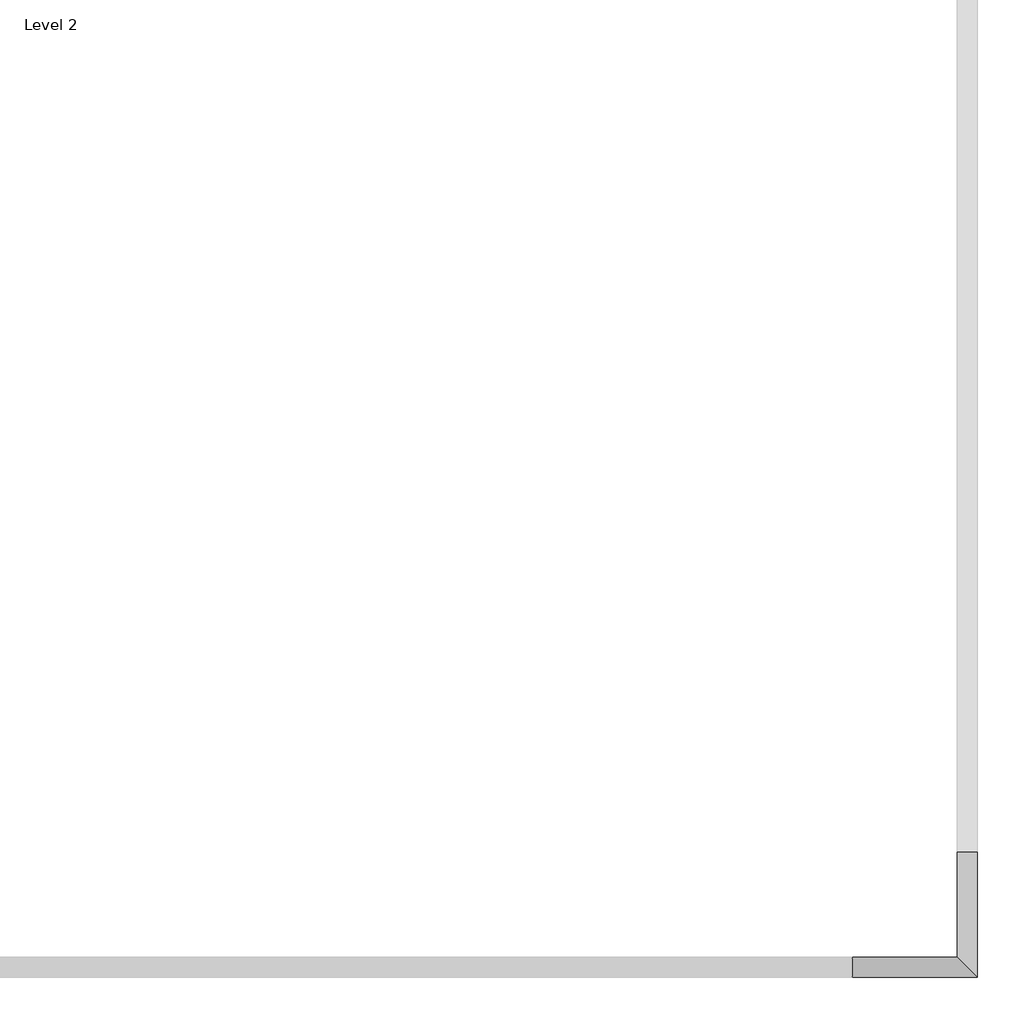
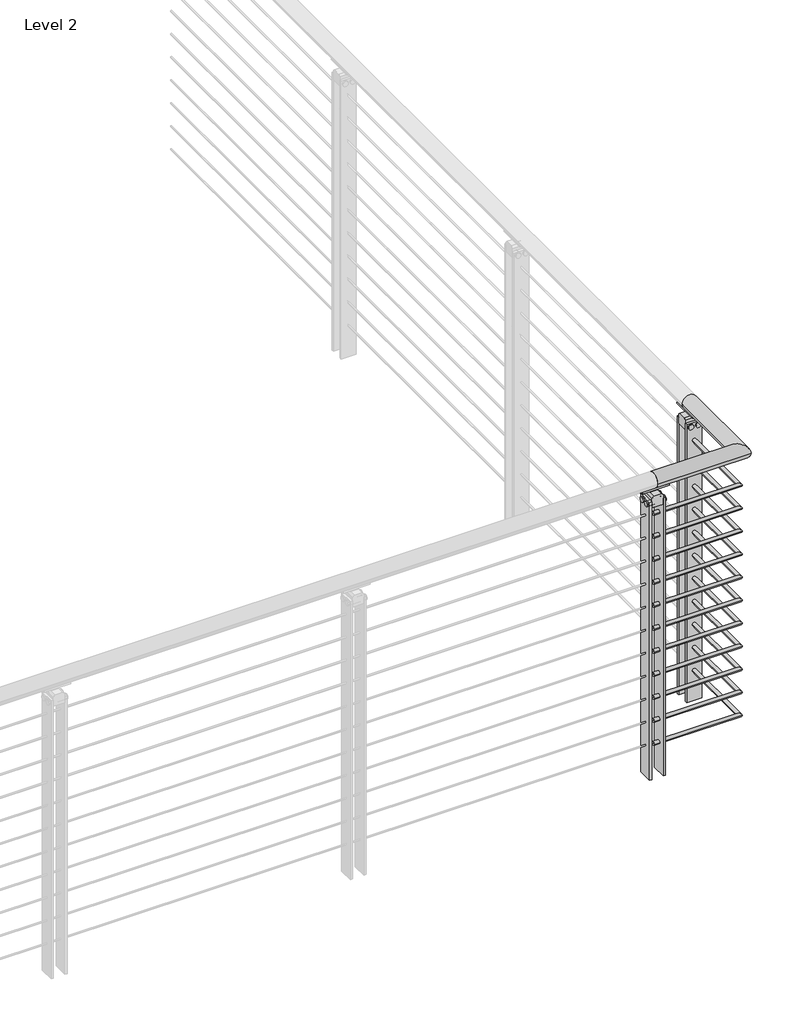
# One storey, part 25 of 31: 1 railing.
"""IFC4 building model written with IfcOpenShell, lengths in millimetres."""

from ifc_helpers import new_model, si_unit, point, frame, frame_2d, origin, place, context, project, spatial, polyline, circle_curve, ellipse_curve, trimmed, segment, composite_curve, outline, extrude, element, save
from ifc_brep_helpers import plane_surface, cylinder_surface, revolved_surface, advanced_brep

model = new_model("IFC4")

# Units and contexts
model_context = context("Model", 3, world=origin())
ifc_project = project(units=[si_unit("LENGTHUNIT", "METRE", prefix="MILLI")], contexts=[model_context])

# Site, building, storey
site = spatial("IfcSite", under=ifc_project)
building = spatial("IfcBuilding", under=site)
storey = spatial("IfcBuildingStorey", under=building, Name="Level 2", Elevation=3048.0)

# Railing
placement = place(None, origin())
element("IfcRailing", 1, ObjectType="VIVA-BLADE-Cable-Weld Mount-Corner", at=placement, inside=storey, context=model_context, shape_type="SolidModel", body=[
    advanced_brep(
    [(46126.2072927, -52244.4426165, 4102.1), (46126.2072927, -52193.6426165, 4102.1), (46443.7072927, -52244.4426165, 4102.1), (46392.9072927, -52193.6426165, 4102.1), (46443.7072927, -51926.9426165, 4102.1), (46392.9072927, -51926.9426165, 4102.1)],
    [
        (0, 1, circle_curve(frame((46126.2072927, -52219.0426165, 4102.1), z_axis=(-1.0, 0.0, 0.0), x_axis=(0.0, 1.0, 0.0)), 25.4)),
        (1, 0, circle_curve(frame((46126.2072927, -52219.0426165, 4102.1), z_axis=(-1.0, 0.0, 0.0), x_axis=(0.0, 1.0, 0.0)), 25.4)),
        (0, 2),
        (2, 3, ellipse_curve(frame((46418.3072927, -52219.0426165, 4102.1), z_axis=(-0.7071067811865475, -0.7071067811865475, 0.0), x_axis=(-0.7071067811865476, 0.7071067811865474, 0.0)), 35.9210245, 25.4)),
        (3, 1),
        (3, 2, ellipse_curve(frame((46418.3072927, -52219.0426165, 4102.1), z_axis=(-0.7071067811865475, -0.7071067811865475, 0.0), x_axis=(-0.7071067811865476, 0.7071067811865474, 0.0)), 35.9210245, 25.4)),
        (4, 5, circle_curve(frame((46418.3072927, -51926.9426165, 4102.1), z_axis=(0.0, 1.0, 0.0), x_axis=(-1.0, 0.0, 0.0)), 25.4)),
        (5, 4, circle_curve(frame((46418.3072927, -51926.9426165, 4102.1), z_axis=(0.0, 1.0, 0.0), x_axis=(-1.0, 0.0, 0.0)), 25.4)),
        (2, 4),
        (5, 3),
    ],
    [
        plane_surface(frame((46126.2072927, -52219.0426165, 4127.5), z_axis=(-1.0, 0.0, 0.0), x_axis=(0.0, 1.0, 0.0))),
        cylinder_surface(frame((46126.2072927, -52219.0426165, 4102.1), z_axis=(-1.0, 0.0, 0.0), x_axis=(0.0, 1.0, 0.0)), 25.4),
        plane_surface(frame((46418.3072927, -51926.9426165, 4127.5), z_axis=(0.0, 1.0, 0.0), x_axis=(0.0, 0.0, 1.0))),
        cylinder_surface(frame((46418.3072927, -52219.0426165, 4102.1), z_axis=(0.0, -1.0, 0.0), x_axis=(-1.0, 0.0, 0.0)), 25.4),
    ],
    [
        (0, [[1, 2]]),
        (1, [[-1, 3, 4, 5]]),
        (1, [[-2, -5, 6, -3]]),
        (2, [[7, 8]]),
        (3, [[-4, 9, -8, 10]]),
        (3, [[-6, -10, -7, -9]]),
    ],
),
    advanced_brep(
    [(46126.2072927, -52212.6926165, 3981.45), (46126.2072927, -52225.3926165, 3981.45), (46411.9572927, -52212.6926165, 3981.45), (46424.6572927, -52225.3926165, 3981.45), (46411.9572927, -51926.9426165, 3981.45), (46424.6572927, -51926.9426165, 3981.45)],
    [
        (0, 1, circle_curve(frame((46126.2072927, -52219.0426165, 3981.45), z_axis=(-1.0, 0.0, 0.0), x_axis=(0.0, -1.0, 0.0)), 6.35)),
        (1, 0, circle_curve(frame((46126.2072927, -52219.0426165, 3981.45), z_axis=(-1.0, 0.0, 0.0), x_axis=(0.0, -1.0, 0.0)), 6.35)),
        (0, 2),
        (2, 3, ellipse_curve(frame((46418.3072927, -52219.0426165, 3981.45), z_axis=(-0.7071067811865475, -0.7071067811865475, 0.0), x_axis=(-0.7071067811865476, 0.7071067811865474, 0.0)), 8.9802561, 6.35)),
        (3, 1),
        (3, 2, ellipse_curve(frame((46418.3072927, -52219.0426165, 3981.45), z_axis=(-0.7071067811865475, -0.7071067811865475, 0.0), x_axis=(-0.7071067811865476, 0.7071067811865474, 0.0)), 8.9802561, 6.35)),
        (4, 5, circle_curve(frame((46418.3072927, -51926.9426165, 3981.45), z_axis=(0.0, 1.0, 0.0), x_axis=(1.0, 0.0, 0.0)), 6.35)),
        (5, 4, circle_curve(frame((46418.3072927, -51926.9426165, 3981.45), z_axis=(0.0, 1.0, 0.0), x_axis=(1.0, 0.0, 0.0)), 6.35)),
        (2, 4),
        (5, 3),
    ],
    [
        plane_surface(frame((46126.2072927, -52219.0426165, 3987.8), z_axis=(-1.0, 0.0, 0.0), x_axis=(0.0, 1.0, 0.0))),
        cylinder_surface(frame((46126.2072927, -52219.0426165, 3981.45), z_axis=(-1.0, 0.0, 0.0), x_axis=(0.0, -1.0, 0.0)), 6.35),
        plane_surface(frame((46418.3072927, -51926.9426165, 3987.8), z_axis=(0.0, 1.0, 0.0), x_axis=(0.0, 0.0, 1.0))),
        cylinder_surface(frame((46418.3072927, -52219.0426165, 3981.45), z_axis=(0.0, -1.0, 0.0), x_axis=(1.0, 0.0, 0.0)), 6.35),
    ],
    [
        (0, [[1, 2]]),
        (1, [[-1, 3, 4, 5]]),
        (1, [[-2, -5, 6, -3]]),
        (2, [[7, 8]]),
        (3, [[-4, 9, -8, 10]]),
        (3, [[-6, -10, -7, -9]]),
    ],
),
    advanced_brep(
    [(46126.2072927, -52212.6926165, 3898.9), (46126.2072927, -52225.3926165, 3898.9), (46411.9572927, -52212.6926165, 3898.9), (46424.6572927, -52225.3926165, 3898.9), (46411.9572927, -51926.9426165, 3898.9), (46424.6572927, -51926.9426165, 3898.9)],
    [
        (0, 1, circle_curve(frame((46126.2072927, -52219.0426165, 3898.9), z_axis=(-1.0, 0.0, 0.0), x_axis=(0.0, -1.0, 0.0)), 6.35)),
        (1, 0, circle_curve(frame((46126.2072927, -52219.0426165, 3898.9), z_axis=(-1.0, 0.0, 0.0), x_axis=(0.0, -1.0, 0.0)), 6.35)),
        (0, 2),
        (2, 3, ellipse_curve(frame((46418.3072927, -52219.0426165, 3898.9), z_axis=(-0.7071067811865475, -0.7071067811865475, 0.0), x_axis=(-0.7071067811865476, 0.7071067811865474, 0.0)), 8.9802561, 6.35)),
        (3, 1),
        (3, 2, ellipse_curve(frame((46418.3072927, -52219.0426165, 3898.9), z_axis=(-0.7071067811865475, -0.7071067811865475, 0.0), x_axis=(-0.7071067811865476, 0.7071067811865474, 0.0)), 8.9802561, 6.35)),
        (4, 5, circle_curve(frame((46418.3072927, -51926.9426165, 3898.9), z_axis=(0.0, 1.0, 0.0), x_axis=(1.0, 0.0, 0.0)), 6.35)),
        (5, 4, circle_curve(frame((46418.3072927, -51926.9426165, 3898.9), z_axis=(0.0, 1.0, 0.0), x_axis=(1.0, 0.0, 0.0)), 6.35)),
        (2, 4),
        (5, 3),
    ],
    [
        plane_surface(frame((46126.2072927, -52219.0426165, 3905.25), z_axis=(-1.0, 0.0, 0.0), x_axis=(0.0, 1.0, 0.0))),
        cylinder_surface(frame((46126.2072927, -52219.0426165, 3898.9), z_axis=(-1.0, 0.0, 0.0), x_axis=(0.0, -1.0, 0.0)), 6.35),
        plane_surface(frame((46418.3072927, -51926.9426165, 3905.25), z_axis=(0.0, 1.0, 0.0), x_axis=(0.0, 0.0, 1.0))),
        cylinder_surface(frame((46418.3072927, -52219.0426165, 3898.9), z_axis=(0.0, -1.0, 0.0), x_axis=(1.0, 0.0, 0.0)), 6.35),
    ],
    [
        (0, [[1, 2]]),
        (1, [[-1, 3, 4, 5]]),
        (1, [[-2, -5, 6, -3]]),
        (2, [[7, 8]]),
        (3, [[-4, 9, -8, 10]]),
        (3, [[-6, -10, -7, -9]]),
    ],
),
    advanced_brep(
    [(46126.2072927, -52212.6926165, 3816.35), (46126.2072927, -52225.3926165, 3816.35), (46411.9572927, -52212.6926165, 3816.35), (46424.6572927, -52225.3926165, 3816.35), (46411.9572927, -51926.9426165, 3816.35), (46424.6572927, -51926.9426165, 3816.35)],
    [
        (0, 1, circle_curve(frame((46126.2072927, -52219.0426165, 3816.35), z_axis=(-1.0, 0.0, 0.0), x_axis=(0.0, -1.0, 0.0)), 6.35)),
        (1, 0, circle_curve(frame((46126.2072927, -52219.0426165, 3816.35), z_axis=(-1.0, 0.0, 0.0), x_axis=(0.0, -1.0, 0.0)), 6.35)),
        (0, 2),
        (2, 3, ellipse_curve(frame((46418.3072927, -52219.0426165, 3816.35), z_axis=(-0.7071067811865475, -0.7071067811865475, 0.0), x_axis=(-0.7071067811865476, 0.7071067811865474, 0.0)), 8.9802561, 6.35)),
        (3, 1),
        (3, 2, ellipse_curve(frame((46418.3072927, -52219.0426165, 3816.35), z_axis=(-0.7071067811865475, -0.7071067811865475, 0.0), x_axis=(-0.7071067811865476, 0.7071067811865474, 0.0)), 8.9802561, 6.35)),
        (4, 5, circle_curve(frame((46418.3072927, -51926.9426165, 3816.35), z_axis=(0.0, 1.0, 0.0), x_axis=(1.0, 0.0, 0.0)), 6.35)),
        (5, 4, circle_curve(frame((46418.3072927, -51926.9426165, 3816.35), z_axis=(0.0, 1.0, 0.0), x_axis=(1.0, 0.0, 0.0)), 6.35)),
        (2, 4),
        (5, 3),
    ],
    [
        plane_surface(frame((46126.2072927, -52219.0426165, 3822.7), z_axis=(-1.0, 0.0, 0.0), x_axis=(0.0, 1.0, 0.0))),
        cylinder_surface(frame((46126.2072927, -52219.0426165, 3816.35), z_axis=(-1.0, 0.0, 0.0), x_axis=(0.0, -1.0, 0.0)), 6.35),
        plane_surface(frame((46418.3072927, -51926.9426165, 3822.7), z_axis=(0.0, 1.0, 0.0), x_axis=(0.0, 0.0, 1.0))),
        cylinder_surface(frame((46418.3072927, -52219.0426165, 3816.35), z_axis=(0.0, -1.0, 0.0), x_axis=(1.0, 0.0, 0.0)), 6.35),
    ],
    [
        (0, [[1, 2]]),
        (1, [[-1, 3, 4, 5]]),
        (1, [[-2, -5, 6, -3]]),
        (2, [[7, 8]]),
        (3, [[-4, 9, -8, 10]]),
        (3, [[-6, -10, -7, -9]]),
    ],
),
    advanced_brep(
    [(46126.2072927, -52212.6926165, 3733.8), (46126.2072927, -52225.3926165, 3733.8), (46411.9572927, -52212.6926165, 3733.8), (46424.6572927, -52225.3926165, 3733.8), (46411.9572927, -51926.9426165, 3733.8), (46424.6572927, -51926.9426165, 3733.8)],
    [
        (0, 1, circle_curve(frame((46126.2072927, -52219.0426165, 3733.8), z_axis=(-1.0, 0.0, 0.0), x_axis=(0.0, -1.0, 0.0)), 6.35)),
        (1, 0, circle_curve(frame((46126.2072927, -52219.0426165, 3733.8), z_axis=(-1.0, 0.0, 0.0), x_axis=(0.0, -1.0, 0.0)), 6.35)),
        (0, 2),
        (2, 3, ellipse_curve(frame((46418.3072927, -52219.0426165, 3733.8), z_axis=(-0.7071067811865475, -0.7071067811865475, 0.0), x_axis=(-0.7071067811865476, 0.7071067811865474, 0.0)), 8.9802561, 6.35)),
        (3, 1),
        (3, 2, ellipse_curve(frame((46418.3072927, -52219.0426165, 3733.8), z_axis=(-0.7071067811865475, -0.7071067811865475, 0.0), x_axis=(-0.7071067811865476, 0.7071067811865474, 0.0)), 8.9802561, 6.35)),
        (4, 5, circle_curve(frame((46418.3072927, -51926.9426165, 3733.8), z_axis=(0.0, 1.0, 0.0), x_axis=(1.0, 0.0, 0.0)), 6.35)),
        (5, 4, circle_curve(frame((46418.3072927, -51926.9426165, 3733.8), z_axis=(0.0, 1.0, 0.0), x_axis=(1.0, 0.0, 0.0)), 6.35)),
        (2, 4),
        (5, 3),
    ],
    [
        plane_surface(frame((46126.2072927, -52219.0426165, 3740.15), z_axis=(-1.0, 0.0, 0.0), x_axis=(0.0, 1.0, 0.0))),
        cylinder_surface(frame((46126.2072927, -52219.0426165, 3733.8), z_axis=(-1.0, 0.0, 0.0), x_axis=(0.0, -1.0, 0.0)), 6.35),
        plane_surface(frame((46418.3072927, -51926.9426165, 3740.15), z_axis=(0.0, 1.0, 0.0), x_axis=(0.0, 0.0, 1.0))),
        cylinder_surface(frame((46418.3072927, -52219.0426165, 3733.8), z_axis=(0.0, -1.0, 0.0), x_axis=(1.0, 0.0, 0.0)), 6.35),
    ],
    [
        (0, [[1, 2]]),
        (1, [[-1, 3, 4, 5]]),
        (1, [[-2, -5, 6, -3]]),
        (2, [[7, 8]]),
        (3, [[-4, 9, -8, 10]]),
        (3, [[-6, -10, -7, -9]]),
    ],
),
    advanced_brep(
    [(46126.2072927, -52212.6926165, 3651.25), (46126.2072927, -52225.3926165, 3651.25), (46411.9572927, -52212.6926165, 3651.25), (46424.6572927, -52225.3926165, 3651.25), (46411.9572927, -51926.9426165, 3651.25), (46424.6572927, -51926.9426165, 3651.25)],
    [
        (0, 1, circle_curve(frame((46126.2072927, -52219.0426165, 3651.25), z_axis=(-1.0, 0.0, 0.0), x_axis=(0.0, -1.0, 0.0)), 6.35)),
        (1, 0, circle_curve(frame((46126.2072927, -52219.0426165, 3651.25), z_axis=(-1.0, 0.0, 0.0), x_axis=(0.0, -1.0, 0.0)), 6.35)),
        (0, 2),
        (2, 3, ellipse_curve(frame((46418.3072927, -52219.0426165, 3651.25), z_axis=(-0.7071067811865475, -0.7071067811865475, 0.0), x_axis=(-0.7071067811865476, 0.7071067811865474, 0.0)), 8.9802561, 6.35)),
        (3, 1),
        (3, 2, ellipse_curve(frame((46418.3072927, -52219.0426165, 3651.25), z_axis=(-0.7071067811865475, -0.7071067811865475, 0.0), x_axis=(-0.7071067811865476, 0.7071067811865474, 0.0)), 8.9802561, 6.35)),
        (4, 5, circle_curve(frame((46418.3072927, -51926.9426165, 3651.25), z_axis=(0.0, 1.0, 0.0), x_axis=(1.0, 0.0, 0.0)), 6.35)),
        (5, 4, circle_curve(frame((46418.3072927, -51926.9426165, 3651.25), z_axis=(0.0, 1.0, 0.0), x_axis=(1.0, 0.0, 0.0)), 6.35)),
        (2, 4),
        (5, 3),
    ],
    [
        plane_surface(frame((46126.2072927, -52219.0426165, 3657.6), z_axis=(-1.0, 0.0, 0.0), x_axis=(0.0, 1.0, 0.0))),
        cylinder_surface(frame((46126.2072927, -52219.0426165, 3651.25), z_axis=(-1.0, 0.0, 0.0), x_axis=(0.0, -1.0, 0.0)), 6.35),
        plane_surface(frame((46418.3072927, -51926.9426165, 3657.6), z_axis=(0.0, 1.0, 0.0), x_axis=(0.0, 0.0, 1.0))),
        cylinder_surface(frame((46418.3072927, -52219.0426165, 3651.25), z_axis=(0.0, -1.0, 0.0), x_axis=(1.0, 0.0, 0.0)), 6.35),
    ],
    [
        (0, [[1, 2]]),
        (1, [[-1, 3, 4, 5]]),
        (1, [[-2, -5, 6, -3]]),
        (2, [[7, 8]]),
        (3, [[-4, 9, -8, 10]]),
        (3, [[-6, -10, -7, -9]]),
    ],
),
    advanced_brep(
    [(46126.2072927, -52212.6926165, 3568.7), (46126.2072927, -52225.3926165, 3568.7), (46411.9572927, -52212.6926165, 3568.7), (46424.6572927, -52225.3926165, 3568.7), (46411.9572927, -51926.9426165, 3568.7), (46424.6572927, -51926.9426165, 3568.7)],
    [
        (0, 1, circle_curve(frame((46126.2072927, -52219.0426165, 3568.7), z_axis=(-1.0, 0.0, 0.0), x_axis=(0.0, -1.0, 0.0)), 6.35)),
        (1, 0, circle_curve(frame((46126.2072927, -52219.0426165, 3568.7), z_axis=(-1.0, 0.0, 0.0), x_axis=(0.0, -1.0, 0.0)), 6.35)),
        (0, 2),
        (2, 3, ellipse_curve(frame((46418.3072927, -52219.0426165, 3568.7), z_axis=(-0.7071067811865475, -0.7071067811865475, 0.0), x_axis=(-0.7071067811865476, 0.7071067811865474, 0.0)), 8.9802561, 6.35)),
        (3, 1),
        (3, 2, ellipse_curve(frame((46418.3072927, -52219.0426165, 3568.7), z_axis=(-0.7071067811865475, -0.7071067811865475, 0.0), x_axis=(-0.7071067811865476, 0.7071067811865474, 0.0)), 8.9802561, 6.35)),
        (4, 5, circle_curve(frame((46418.3072927, -51926.9426165, 3568.7), z_axis=(0.0, 1.0, 0.0), x_axis=(1.0, 0.0, 0.0)), 6.35)),
        (5, 4, circle_curve(frame((46418.3072927, -51926.9426165, 3568.7), z_axis=(0.0, 1.0, 0.0), x_axis=(1.0, 0.0, 0.0)), 6.35)),
        (2, 4),
        (5, 3),
    ],
    [
        plane_surface(frame((46126.2072927, -52219.0426165, 3575.05), z_axis=(-1.0, 0.0, 0.0), x_axis=(0.0, 1.0, 0.0))),
        cylinder_surface(frame((46126.2072927, -52219.0426165, 3568.7), z_axis=(-1.0, 0.0, 0.0), x_axis=(0.0, -1.0, 0.0)), 6.35),
        plane_surface(frame((46418.3072927, -51926.9426165, 3575.05), z_axis=(0.0, 1.0, 0.0), x_axis=(0.0, 0.0, 1.0))),
        cylinder_surface(frame((46418.3072927, -52219.0426165, 3568.7), z_axis=(0.0, -1.0, 0.0), x_axis=(1.0, 0.0, 0.0)), 6.35),
    ],
    [
        (0, [[1, 2]]),
        (1, [[-1, 3, 4, 5]]),
        (1, [[-2, -5, 6, -3]]),
        (2, [[7, 8]]),
        (3, [[-4, 9, -8, 10]]),
        (3, [[-6, -10, -7, -9]]),
    ],
),
    advanced_brep(
    [(46126.2072927, -52212.6926165, 3486.15), (46126.2072927, -52225.3926165, 3486.15), (46411.9572927, -52212.6926165, 3486.15), (46424.6572927, -52225.3926165, 3486.15), (46411.9572927, -51926.9426165, 3486.15), (46424.6572927, -51926.9426165, 3486.15)],
    [
        (0, 1, circle_curve(frame((46126.2072927, -52219.0426165, 3486.15), z_axis=(-1.0, 0.0, 0.0), x_axis=(0.0, -1.0, 0.0)), 6.35)),
        (1, 0, circle_curve(frame((46126.2072927, -52219.0426165, 3486.15), z_axis=(-1.0, 0.0, 0.0), x_axis=(0.0, -1.0, 0.0)), 6.35)),
        (0, 2),
        (2, 3, ellipse_curve(frame((46418.3072927, -52219.0426165, 3486.15), z_axis=(-0.7071067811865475, -0.7071067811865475, 0.0), x_axis=(-0.7071067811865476, 0.7071067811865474, 0.0)), 8.9802561, 6.35)),
        (3, 1),
        (3, 2, ellipse_curve(frame((46418.3072927, -52219.0426165, 3486.15), z_axis=(-0.7071067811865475, -0.7071067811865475, 0.0), x_axis=(-0.7071067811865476, 0.7071067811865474, 0.0)), 8.9802561, 6.35)),
        (4, 5, circle_curve(frame((46418.3072927, -51926.9426165, 3486.15), z_axis=(0.0, 1.0, 0.0), x_axis=(1.0, 0.0, 0.0)), 6.35)),
        (5, 4, circle_curve(frame((46418.3072927, -51926.9426165, 3486.15), z_axis=(0.0, 1.0, 0.0), x_axis=(1.0, 0.0, 0.0)), 6.35)),
        (2, 4),
        (5, 3),
    ],
    [
        plane_surface(frame((46126.2072927, -52219.0426165, 3492.5), z_axis=(-1.0, 0.0, 0.0), x_axis=(0.0, 1.0, 0.0))),
        cylinder_surface(frame((46126.2072927, -52219.0426165, 3486.15), z_axis=(-1.0, 0.0, 0.0), x_axis=(0.0, -1.0, 0.0)), 6.35),
        plane_surface(frame((46418.3072927, -51926.9426165, 3492.5), z_axis=(0.0, 1.0, 0.0), x_axis=(0.0, 0.0, 1.0))),
        cylinder_surface(frame((46418.3072927, -52219.0426165, 3486.15), z_axis=(0.0, -1.0, 0.0), x_axis=(1.0, 0.0, 0.0)), 6.35),
    ],
    [
        (0, [[1, 2]]),
        (1, [[-1, 3, 4, 5]]),
        (1, [[-2, -5, 6, -3]]),
        (2, [[7, 8]]),
        (3, [[-4, 9, -8, 10]]),
        (3, [[-6, -10, -7, -9]]),
    ],
),
    advanced_brep(
    [(46126.2072927, -52212.6926165, 3403.6), (46126.2072927, -52225.3926165, 3403.6), (46411.9572927, -52212.6926165, 3403.6), (46424.6572927, -52225.3926165, 3403.6), (46411.9572927, -51926.9426165, 3403.6), (46424.6572927, -51926.9426165, 3403.6)],
    [
        (0, 1, circle_curve(frame((46126.2072927, -52219.0426165, 3403.6), z_axis=(-1.0, 0.0, 0.0), x_axis=(0.0, -1.0, 0.0)), 6.35)),
        (1, 0, circle_curve(frame((46126.2072927, -52219.0426165, 3403.6), z_axis=(-1.0, 0.0, 0.0), x_axis=(0.0, -1.0, 0.0)), 6.35)),
        (0, 2),
        (2, 3, ellipse_curve(frame((46418.3072927, -52219.0426165, 3403.6), z_axis=(-0.7071067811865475, -0.7071067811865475, 0.0), x_axis=(-0.7071067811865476, 0.7071067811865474, 0.0)), 8.9802561, 6.35)),
        (3, 1),
        (3, 2, ellipse_curve(frame((46418.3072927, -52219.0426165, 3403.6), z_axis=(-0.7071067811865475, -0.7071067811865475, 0.0), x_axis=(-0.7071067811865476, 0.7071067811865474, 0.0)), 8.9802561, 6.35)),
        (4, 5, circle_curve(frame((46418.3072927, -51926.9426165, 3403.6), z_axis=(0.0, 1.0, 0.0), x_axis=(1.0, 0.0, 0.0)), 6.35)),
        (5, 4, circle_curve(frame((46418.3072927, -51926.9426165, 3403.6), z_axis=(0.0, 1.0, 0.0), x_axis=(1.0, 0.0, 0.0)), 6.35)),
        (2, 4),
        (5, 3),
    ],
    [
        plane_surface(frame((46126.2072927, -52219.0426165, 3409.95), z_axis=(-1.0, 0.0, 0.0), x_axis=(0.0, 1.0, 0.0))),
        cylinder_surface(frame((46126.2072927, -52219.0426165, 3403.6), z_axis=(-1.0, 0.0, 0.0), x_axis=(0.0, -1.0, 0.0)), 6.35),
        plane_surface(frame((46418.3072927, -51926.9426165, 3409.95), z_axis=(0.0, 1.0, 0.0), x_axis=(0.0, 0.0, 1.0))),
        cylinder_surface(frame((46418.3072927, -52219.0426165, 3403.6), z_axis=(0.0, -1.0, 0.0), x_axis=(1.0, 0.0, 0.0)), 6.35),
    ],
    [
        (0, [[1, 2]]),
        (1, [[-1, 3, 4, 5]]),
        (1, [[-2, -5, 6, -3]]),
        (2, [[7, 8]]),
        (3, [[-4, 9, -8, 10]]),
        (3, [[-6, -10, -7, -9]]),
    ],
),
    advanced_brep(
    [(46126.2072927, -52212.6926165, 3321.05), (46126.2072927, -52225.3926165, 3321.05), (46411.9572927, -52212.6926165, 3321.05), (46424.6572927, -52225.3926165, 3321.05), (46411.9572927, -51926.9426165, 3321.05), (46424.6572927, -51926.9426165, 3321.05)],
    [
        (0, 1, circle_curve(frame((46126.2072927, -52219.0426165, 3321.05), z_axis=(-1.0, 0.0, 0.0), x_axis=(0.0, -1.0, 0.0)), 6.35)),
        (1, 0, circle_curve(frame((46126.2072927, -52219.0426165, 3321.05), z_axis=(-1.0, 0.0, 0.0), x_axis=(0.0, -1.0, 0.0)), 6.35)),
        (0, 2),
        (2, 3, ellipse_curve(frame((46418.3072927, -52219.0426165, 3321.05), z_axis=(-0.7071067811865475, -0.7071067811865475, 0.0), x_axis=(-0.7071067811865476, 0.7071067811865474, 0.0)), 8.9802561, 6.35)),
        (3, 1),
        (3, 2, ellipse_curve(frame((46418.3072927, -52219.0426165, 3321.05), z_axis=(-0.7071067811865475, -0.7071067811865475, 0.0), x_axis=(-0.7071067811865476, 0.7071067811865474, 0.0)), 8.9802561, 6.35)),
        (4, 5, circle_curve(frame((46418.3072927, -51926.9426165, 3321.05), z_axis=(0.0, 1.0, 0.0), x_axis=(1.0, 0.0, 0.0)), 6.35)),
        (5, 4, circle_curve(frame((46418.3072927, -51926.9426165, 3321.05), z_axis=(0.0, 1.0, 0.0), x_axis=(1.0, 0.0, 0.0)), 6.35)),
        (2, 4),
        (5, 3),
    ],
    [
        plane_surface(frame((46126.2072927, -52219.0426165, 3327.4), z_axis=(-1.0, 0.0, 0.0), x_axis=(0.0, 1.0, 0.0))),
        cylinder_surface(frame((46126.2072927, -52219.0426165, 3321.05), z_axis=(-1.0, 0.0, 0.0), x_axis=(0.0, -1.0, 0.0)), 6.35),
        plane_surface(frame((46418.3072927, -51926.9426165, 3327.4), z_axis=(0.0, 1.0, 0.0), x_axis=(0.0, 0.0, 1.0))),
        cylinder_surface(frame((46418.3072927, -52219.0426165, 3321.05), z_axis=(0.0, -1.0, 0.0), x_axis=(1.0, 0.0, 0.0)), 6.35),
    ],
    [
        (0, [[1, 2]]),
        (1, [[-1, 3, 4, 5]]),
        (1, [[-2, -5, 6, -3]]),
        (2, [[7, 8]]),
        (3, [[-4, 9, -8, 10]]),
        (3, [[-6, -10, -7, -9]]),
    ],
),
    advanced_brep(
    [(46126.2072927, -52212.6926165, 3238.5), (46126.2072927, -52225.3926165, 3238.5), (46411.9572927, -52212.6926165, 3238.5), (46424.6572927, -52225.3926165, 3238.5), (46411.9572927, -51926.9426165, 3238.5), (46424.6572927, -51926.9426165, 3238.5)],
    [
        (0, 1, circle_curve(frame((46126.2072927, -52219.0426165, 3238.5), z_axis=(-1.0, 0.0, 0.0), x_axis=(0.0, -1.0, 0.0)), 6.35)),
        (1, 0, circle_curve(frame((46126.2072927, -52219.0426165, 3238.5), z_axis=(-1.0, 0.0, 0.0), x_axis=(0.0, -1.0, 0.0)), 6.35)),
        (0, 2),
        (2, 3, ellipse_curve(frame((46418.3072927, -52219.0426165, 3238.5), z_axis=(-0.7071067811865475, -0.7071067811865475, 0.0), x_axis=(-0.7071067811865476, 0.7071067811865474, 0.0)), 8.9802561, 6.35)),
        (3, 1),
        (3, 2, ellipse_curve(frame((46418.3072927, -52219.0426165, 3238.5), z_axis=(-0.7071067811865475, -0.7071067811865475, 0.0), x_axis=(-0.7071067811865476, 0.7071067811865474, 0.0)), 8.9802561, 6.35)),
        (4, 5, circle_curve(frame((46418.3072927, -51926.9426165, 3238.5), z_axis=(0.0, 1.0, 0.0), x_axis=(1.0, 0.0, 0.0)), 6.35)),
        (5, 4, circle_curve(frame((46418.3072927, -51926.9426165, 3238.5), z_axis=(0.0, 1.0, 0.0), x_axis=(1.0, 0.0, 0.0)), 6.35)),
        (2, 4),
        (5, 3),
    ],
    [
        plane_surface(frame((46126.2072927, -52219.0426165, 3244.85), z_axis=(-1.0, 0.0, 0.0), x_axis=(0.0, 1.0, 0.0))),
        cylinder_surface(frame((46126.2072927, -52219.0426165, 3238.5), z_axis=(-1.0, 0.0, 0.0), x_axis=(0.0, -1.0, 0.0)), 6.35),
        plane_surface(frame((46418.3072927, -51926.9426165, 3244.85), z_axis=(0.0, 1.0, 0.0), x_axis=(0.0, 0.0, 1.0))),
        cylinder_surface(frame((46418.3072927, -52219.0426165, 3238.5), z_axis=(0.0, -1.0, 0.0), x_axis=(1.0, 0.0, 0.0)), 6.35),
    ],
    [
        (0, [[1, 2]]),
        (1, [[-1, 3, 4, 5]]),
        (1, [[-2, -5, 6, -3]]),
        (2, [[7, 8]]),
        (3, [[-4, 9, -8, 10]]),
        (3, [[-6, -10, -7, -9]]),
    ],
),
    advanced_brep(
    [(46126.2072927, -52212.6926165, 3155.95), (46126.2072927, -52225.3926165, 3155.95), (46411.9572927, -52212.6926165, 3155.95), (46424.6572927, -52225.3926165, 3155.95), (46411.9572927, -51926.9426165, 3155.95), (46424.6572927, -51926.9426165, 3155.95)],
    [
        (0, 1, circle_curve(frame((46126.2072927, -52219.0426165, 3155.95), z_axis=(-1.0, 0.0, 0.0), x_axis=(0.0, -1.0, 0.0)), 6.35)),
        (1, 0, circle_curve(frame((46126.2072927, -52219.0426165, 3155.95), z_axis=(-1.0, 0.0, 0.0), x_axis=(0.0, -1.0, 0.0)), 6.35)),
        (0, 2),
        (2, 3, ellipse_curve(frame((46418.3072927, -52219.0426165, 3155.95), z_axis=(-0.7071067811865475, -0.7071067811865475, 0.0), x_axis=(-0.7071067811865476, 0.7071067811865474, 0.0)), 8.9802561, 6.35)),
        (3, 1),
        (3, 2, ellipse_curve(frame((46418.3072927, -52219.0426165, 3155.95), z_axis=(-0.7071067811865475, -0.7071067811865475, 0.0), x_axis=(-0.7071067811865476, 0.7071067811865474, 0.0)), 8.9802561, 6.35)),
        (4, 5, circle_curve(frame((46418.3072927, -51926.9426165, 3155.95), z_axis=(0.0, 1.0, 0.0), x_axis=(1.0, 0.0, 0.0)), 6.35)),
        (5, 4, circle_curve(frame((46418.3072927, -51926.9426165, 3155.95), z_axis=(0.0, 1.0, 0.0), x_axis=(1.0, 0.0, 0.0)), 6.35)),
        (2, 4),
        (5, 3),
    ],
    [
        plane_surface(frame((46126.2072927, -52219.0426165, 3162.3), z_axis=(-1.0, 0.0, 0.0), x_axis=(0.0, 1.0, 0.0))),
        cylinder_surface(frame((46126.2072927, -52219.0426165, 3155.95), z_axis=(-1.0, 0.0, 0.0), x_axis=(0.0, -1.0, 0.0)), 6.35),
        plane_surface(frame((46418.3072927, -51926.9426165, 3162.3), z_axis=(0.0, 1.0, 0.0), x_axis=(0.0, 0.0, 1.0))),
        cylinder_surface(frame((46418.3072927, -52219.0426165, 3155.95), z_axis=(0.0, -1.0, 0.0), x_axis=(1.0, 0.0, 0.0)), 6.35),
    ],
    [
        (0, [[1, 2]]),
        (1, [[-1, 3, 4, 5]]),
        (1, [[-2, -5, 6, -3]]),
        (2, [[7, 8]]),
        (3, [[-4, 9, -8, 10]]),
        (3, [[-6, -10, -7, -9]]),
    ],
),
    advanced_brep(
    [(46405.5471691, -51881.7052165, 4080.0967655), (46430.4192336, -51881.7052165, 4079.9535285), (46433.2281639, -51881.7052165, 4075.1267745), (46401.7112716, -51881.7052165, 4075.707533), (46405.5471691, -51972.1800165, 4080.0967655), (46401.7112716, -51972.1800165, 4075.707533), (46433.3419573, -51972.1800165, 4075.1893964), (46430.5062057, -51972.1800165, 4080.0018447)],
    [
        (0, 1, circle_curve(frame((46418.1109719, -51881.7052165, 4102.2115898), z_axis=(0.0, -1.0, 0.0), x_axis=(-1.0, 0.0, 0.0)), 25.4345159)),
        (1, 2, circle_curve(frame((46431.7508588, -51881.7052165, 4077.4993599), z_axis=(0.0, 1.0, 0.0), x_axis=(-1.0, 0.0, 0.0)), 2.7949225)),
        (2, 3, circle_curve(frame((46417.9775089, -51881.7052165, 4102.9742164), z_axis=(0.0, 1.0, 0.0), x_axis=(-1.0, 0.0, 0.0)), 31.75)),
        (3, 0, circle_curve(frame((46403.9996114, -51881.7052165, 4077.5784521), z_axis=(0.0, 1.0, 0.0), x_axis=(-1.0, 0.0, 0.0)), 2.9558141)),
        (4, 5, circle_curve(frame((46403.9996114, -51972.1800165, 4077.5784521), z_axis=(0.0, -1.0, 0.0), x_axis=(-1.0, 0.0, 0.0)), 2.9558141)),
        (5, 6, circle_curve(frame((46417.9775089, -51972.1800165, 4102.9742164), z_axis=(0.0, -1.0, 0.0), x_axis=(-1.0, 0.0, 0.0)), 31.75)),
        (6, 7, circle_curve(frame((46431.7508588, -51972.1800165, 4077.4993599), z_axis=(0.0, -1.0, 0.0), x_axis=(-1.0, 0.0, 0.0)), 2.7949225)),
        (7, 4, circle_curve(frame((46418.1109719, -51972.1800165, 4102.2115898), z_axis=(0.0, 1.0, 0.0), x_axis=(-1.0, 0.0, 0.0)), 25.4345159)),
        (0, 4),
        (7, 1),
        (6, 2),
        (5, 3),
    ],
    [
        plane_surface(frame((46392.6764561, -51881.7052165, 4102.2115898), z_axis=(0.0, 1.0, 0.0), x_axis=(0.0, 0.0, -1.0))),
        plane_surface(frame((46392.6764561, -51972.1800165, 4102.2115898), z_axis=(0.0, -1.0, 0.0), x_axis=(0.0, 0.0, 1.0))),
        revolved_surface(polyline([(46392.676456, -51972.1800165, 4102.2115898), (46392.676456, -51881.7052165, 4102.2115898)]), (46418.1109719, -51972.1800165, 4102.2115898), (0.0, -1.0, 0.0)),
        cylinder_surface(frame((46431.7508588, -51972.1800165, 4077.4993599), z_axis=(0.0, 1.0, 0.0), x_axis=(-1.0, 0.0, 0.0)), 2.7949225),
        cylinder_surface(frame((46417.9775089, -51972.1800165, 4102.9742164), z_axis=(0.0, 1.0, 0.0), x_axis=(-1.0, 0.0, 0.0)), 31.75),
        cylinder_surface(frame((46403.9996114, -51972.1800165, 4077.5784521), z_axis=(0.0, 1.0, 0.0), x_axis=(-1.0, 0.0, 0.0)), 2.9558141),
    ],
    [
        (0, [[1, 2, 3, 4]]),
        (1, [[5, 6, 7, 8]]),
        (2, [[-1, 9, -8, 10]]),
        (3, [[-2, -10, -7, 11]]),
        (4, [[-3, -11, -6, 12]]),
        (5, [[-4, -12, -5, -9]]),
    ],
),
    extrude(outline(composite_curve([segment(polyline([(-51914.2426165, 4062.4125), (-51939.6426165, 4062.4125)]), True, "CONTINUOUS"), segment(trimmed(circle_curve(frame_2d((-51954.0105314, 4062.4125)), 14.3679149), [point((-51939.6426165, 4062.4125))], [point((-51954.0105314, 4076.7804149))], True, "CARTESIAN"), True, "CONTINUOUS"), segment(polyline([(-51954.0105314, 4076.7804149), (-51899.8747017, 4076.7804149)]), True, "CONTINUOUS"), segment(trimmed(circle_curve(frame_2d((-51899.8747017, 4062.4125)), 14.3679149), [point((-51899.8747017, 4076.7804149))], [point((-51914.2426165, 4062.4125))], True, "CARTESIAN"), True, "CONTINUOUS")], self_intersect=False)), frame((46415.7672927, 0.0, 0.0), z_axis=(1.0, 0.0, 0.0), x_axis=(0.0, 1.0, 0.0)), (0.0, 0.0, 1.0), 5.08),
    extrude(outline(polyline([(46392.907496, -51954.0174522), (46392.907496, -51945.9926165), (46443.7098206, -51945.9926165), (46443.7098206, -51954.0174522), (46392.907496, -51954.0174522)])), frame((0.0, 0.0, 3048.0), z_axis=(0.0, 0.0, 1.0), x_axis=(1.0, 0.0, 0.0)), (0.0, 0.0, 1.0), 996.95),
    extrude(outline(composite_curve([segment(trimmed(circle_curve(frame_2d((4034.0416929, 46431.0097696)), 8.89), [point((4034.0416929, 46439.8997696))], [point((4034.0416929, 46422.1197696))], False, "CARTESIAN"), True, "CONTINUOUS"), segment(trimmed(circle_curve(frame_2d((4034.0416929, 46431.0097696)), 8.89), [point((4034.0416929, 46422.1197696))], [point((4034.0416929, 46439.8997696))], False, "CARTESIAN"), True, "CONTINUOUS")], self_intersect=False)), frame((0.0, -51958.6926165, 0.0), z_axis=(0.0, 1.0, 0.0), x_axis=(0.0, 0.0, 1.0)), (0.0, 0.0, 1.0), 63.4880631),
    extrude(outline(composite_curve([segment(trimmed(circle_curve(frame_2d((4034.0416929, 46405.6098716)), 8.89), [point((4034.0416929, 46414.4998716))], [point((4034.0416929, 46396.7198716))], False, "CARTESIAN"), True, "CONTINUOUS"), segment(trimmed(circle_curve(frame_2d((4034.0416929, 46405.6098716)), 8.89), [point((4034.0416929, 46396.7198716))], [point((4034.0416929, 46414.4998716))], False, "CARTESIAN"), True, "CONTINUOUS")], self_intersect=False)), frame((0.0, -51958.6926165, 0.0), z_axis=(0.0, 1.0, 0.0), x_axis=(0.0, 0.0, 1.0)), (0.0, 0.0, 1.0), 63.4880631),
    extrude(outline(polyline([(-51945.9926165, 4022.7123), (-51945.9926165, 4056.0625), (-51939.6426165, 4062.4125), (-51914.2426165, 4062.4125), (-51907.8926165, 4056.0625), (-51907.8926165, 4022.7123), (-51945.9926165, 4022.7123)])), frame((46392.9072927, 0.0, 0.0), z_axis=(1.0, 0.0, 0.0), x_axis=(0.0, 1.0, 0.0)), (0.0, 0.0, 1.0), 50.8025279),
    extrude(outline(polyline([(46392.907496, -51907.8926546), (46392.907496, -51899.8916546), (46443.7098206, -51899.8916546), (46443.7098206, -51907.8926546), (46392.907496, -51907.8926546)])), frame((0.0, 0.0, 3048.0), z_axis=(0.0, 0.0, 1.0), x_axis=(1.0, 0.0, 0.0)), (0.0, 0.0, 1.0), 996.95),
    advanced_brep(
    [(46171.4446927, -52206.2824929, 4080.0967655), (46171.4446927, -52231.1545574, 4079.9535285), (46171.4446927, -52233.9634877, 4075.1267745), (46171.4446927, -52202.4465955, 4075.707533), (46080.9698927, -52206.2824929, 4080.0967655), (46080.9698927, -52202.4465955, 4075.707533), (46080.9698927, -52234.0772811, 4075.1893964), (46080.9698927, -52231.2415296, 4080.0018447)],
    [
        (0, 1, circle_curve(frame((46171.4446927, -52218.8462958, 4102.2115898), z_axis=(-1.0, 0.0, 0.0), x_axis=(0.0, 1.0, 0.0)), 25.4345159)),
        (1, 2, circle_curve(frame((46171.4446927, -52232.4861827, 4077.4993599), z_axis=(1.0, 0.0, 0.0), x_axis=(0.0, 1.0, 0.0)), 2.7949225)),
        (2, 3, circle_curve(frame((46171.4446927, -52218.7128327, 4102.9742164), z_axis=(1.0, 0.0, 0.0), x_axis=(0.0, 1.0, 0.0)), 31.75)),
        (3, 0, circle_curve(frame((46171.4446927, -52204.7349352, 4077.5784521), z_axis=(1.0, 0.0, 0.0), x_axis=(0.0, 1.0, 0.0)), 2.9558141)),
        (4, 5, circle_curve(frame((46080.9698927, -52204.7349352, 4077.5784521), z_axis=(-1.0, 0.0, 0.0), x_axis=(0.0, 1.0, 0.0)), 2.9558141)),
        (5, 6, circle_curve(frame((46080.9698927, -52218.7128327, 4102.9742164), z_axis=(-1.0, 0.0, 0.0), x_axis=(0.0, 1.0, 0.0)), 31.75)),
        (6, 7, circle_curve(frame((46080.9698927, -52232.4861827, 4077.4993599), z_axis=(-1.0, 0.0, 0.0), x_axis=(0.0, 1.0, 0.0)), 2.7949225)),
        (7, 4, circle_curve(frame((46080.9698927, -52218.8462958, 4102.2115898), z_axis=(1.0, 0.0, 0.0), x_axis=(0.0, 1.0, 0.0)), 25.4345159)),
        (0, 4),
        (7, 1),
        (6, 2),
        (5, 3),
    ],
    [
        plane_surface(frame((46171.4446927, -52193.4117799, 4102.2115898), z_axis=(1.0, 0.0, 0.0), x_axis=(0.0, 0.0, -1.0))),
        plane_surface(frame((46080.9698927, -52193.4117799, 4102.2115898), z_axis=(-1.0, 0.0, 0.0), x_axis=(0.0, 0.0, 1.0))),
        revolved_surface(polyline([(46080.9698927, -52193.4117799, 4102.2115898), (46171.4446927, -52193.4117799, 4102.2115898)]), (46080.9698927, -52218.8462958, 4102.2115898), (-1.0, 0.0, 0.0)),
        cylinder_surface(frame((46080.9698927, -52232.4861827, 4077.4993599), z_axis=(1.0, 0.0, 0.0), x_axis=(0.0, 1.0, 0.0)), 2.7949225),
        cylinder_surface(frame((46080.9698927, -52218.7128327, 4102.9742164), z_axis=(1.0, 0.0, 0.0), x_axis=(0.0, 1.0, 0.0)), 31.75),
        cylinder_surface(frame((46080.9698927, -52204.7349352, 4077.5784521), z_axis=(1.0, 0.0, 0.0), x_axis=(0.0, 1.0, 0.0)), 2.9558141),
    ],
    [
        (0, [[1, 2, 3, 4]]),
        (1, [[5, 6, 7, 8]]),
        (2, [[-1, 9, -8, 10]]),
        (3, [[-2, -10, -7, 11]]),
        (4, [[-3, -11, -6, 12]]),
        (5, [[-4, -12, -5, -9]]),
    ],
),
    extrude(outline(composite_curve([segment(trimmed(circle_curve(frame_2d((4062.4125, 46153.2752076)), 14.3679149), [point((4062.4125, 46138.9072927))], [point((4076.7804149, 46153.2752076))], True, "CARTESIAN"), True, "CONTINUOUS"), segment(polyline([(4076.7804149, 46153.2752076), (4076.7804149, 46099.1393778)]), True, "CONTINUOUS"), segment(trimmed(circle_curve(frame_2d((4062.4125, 46099.1393778)), 14.3679149), [point((4076.7804149, 46099.1393778))], [point((4062.4125, 46113.5072927))], True, "CARTESIAN"), True, "CONTINUOUS"), segment(polyline([(4062.4125, 46113.5072927), (4062.4125, 46138.9072927)]), True, "CONTINUOUS")], self_intersect=False)), frame((0.0, -52221.5826165, 0.0), z_axis=(0.0, 1.0, 0.0), x_axis=(0.0, 0.0, 1.0)), (0.0, 0.0, 1.0), 5.08),
    extrude(outline(polyline([(46099.132457, -52193.6428199), (46107.1572927, -52193.6428199), (46107.1572927, -52244.4451445), (46099.132457, -52244.4451445), (46099.132457, -52193.6428199)])), frame((0.0, 0.0, 3048.0), z_axis=(0.0, 0.0, 1.0), x_axis=(1.0, 0.0, 0.0)), (0.0, 0.0, 1.0), 996.95),
    extrude(outline(composite_curve([segment(trimmed(circle_curve(frame_2d((-52231.7450935, 4034.0416929)), 8.89), [point((-52240.6350935, 4034.0416929))], [point((-52222.8550935, 4034.0416929))], False, "CARTESIAN"), True, "CONTINUOUS"), segment(trimmed(circle_curve(frame_2d((-52231.7450935, 4034.0416929)), 8.89), [point((-52222.8550935, 4034.0416929))], [point((-52240.6350935, 4034.0416929))], False, "CARTESIAN"), True, "CONTINUOUS")], self_intersect=False)), frame((46094.4572927, 0.0, 0.0), z_axis=(1.0, 0.0, 0.0), x_axis=(0.0, 1.0, 0.0)), (0.0, 0.0, 1.0), 63.4880631),
    extrude(outline(composite_curve([segment(trimmed(circle_curve(frame_2d((-52206.3451955, 4034.0416929)), 8.89), [point((-52215.2351955, 4034.0416929))], [point((-52197.4551955, 4034.0416929))], False, "CARTESIAN"), True, "CONTINUOUS"), segment(trimmed(circle_curve(frame_2d((-52206.3451955, 4034.0416929)), 8.89), [point((-52197.4551955, 4034.0416929))], [point((-52215.2351955, 4034.0416929))], False, "CARTESIAN"), True, "CONTINUOUS")], self_intersect=False)), frame((46094.4572927, 0.0, 0.0), z_axis=(1.0, 0.0, 0.0), x_axis=(0.0, 1.0, 0.0)), (0.0, 0.0, 1.0), 63.4880631),
    extrude(outline(polyline([(4022.7123, 46107.1572927), (4022.7123, 46145.2572927), (4056.0625, 46145.2572927), (4062.4125, 46138.9072927), (4062.4125, 46113.5072927), (4056.0625, 46107.1572927), (4022.7123, 46107.1572927)])), frame((0.0, -52244.4451445, 0.0), z_axis=(0.0, 1.0, 0.0), x_axis=(0.0, 0.0, 1.0)), (0.0, 0.0, 1.0), 50.8025279),
    extrude(outline(polyline([(46145.2572547, -52193.6428199), (46153.2582547, -52193.6428199), (46153.2582547, -52244.4451445), (46145.2572547, -52244.4451445), (46145.2572547, -52193.6428199)])), frame((0.0, 0.0, 3048.0), z_axis=(0.0, 0.0, 1.0), x_axis=(1.0, 0.0, 0.0)), (0.0, 0.0, 1.0), 996.95),
])

save(model, "model.ifc")
